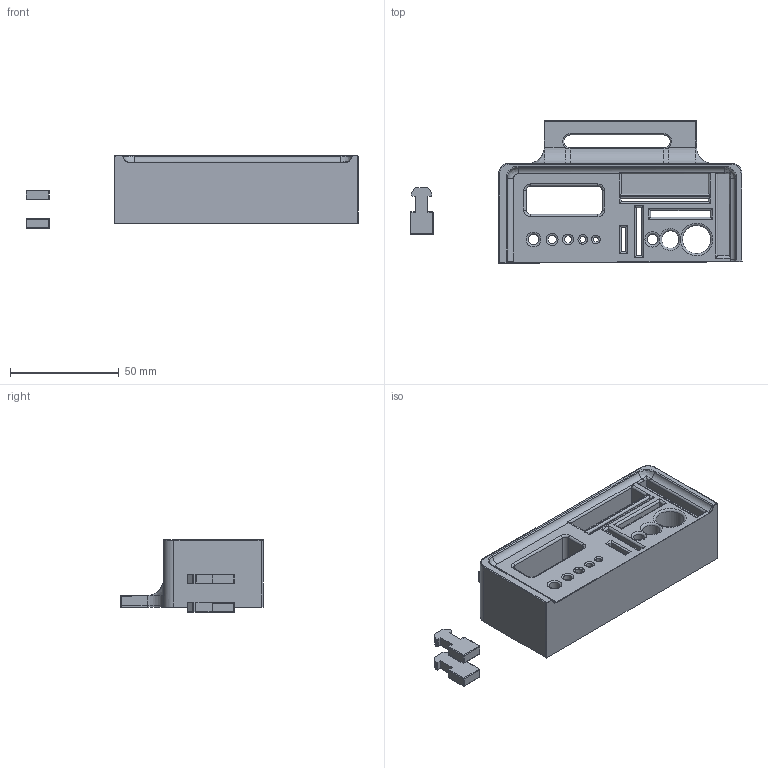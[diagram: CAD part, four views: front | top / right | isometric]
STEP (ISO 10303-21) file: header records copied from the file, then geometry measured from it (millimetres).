
FILE_DESCRIPTION(/* description */ (''),/* implementation_level */ '2;1');
FILE_NAME(/* name */ 'g Tool Holder v93.step',/* time_stamp */ '2023-02-25T06:10:31-05:00',/* author */ (''),/* organization */ (''),/* preprocessor_version */ 'ST-DEVELOPER v19.2',/* originating_system */ 'Autodesk Translation Framework v11.17.0.187',/* authorisation */ '');
FILE_SCHEMA (('AUTOMOTIVE_DESIGN { 1 0 10303 214 3 1 1 }'));
Length unit declared in the file: millimetre
Products named in the file (1): Tool Holder
Bounding box: 152.53 x 65.46 x 33.3 mm (x, y, z)
Volume: 120172.2 mm3; surface area: 36099 mm2
Topology: 3 solids, 3 shells, 329 faces, 834 edges, 507 vertices
Faces by surface type: cylinder 122, plane 104, bspline 65, torus 20, sphere 18
Full cylindrical faces by diameter (mm): 2.4 x1, 2.8 x1, 3.4 x1, 3.9 x1, 5 x2, 8 x1, 13 x1
Entity records: 11109 total; most frequent: CARTESIAN_POINT 3251, ORIENTED_EDGE 1666, DIRECTION 1613, EDGE_CURVE 833, AXIS2_PLACEMENT_3D 580, VERTEX_POINT 507, LINE 453, VECTOR 453
